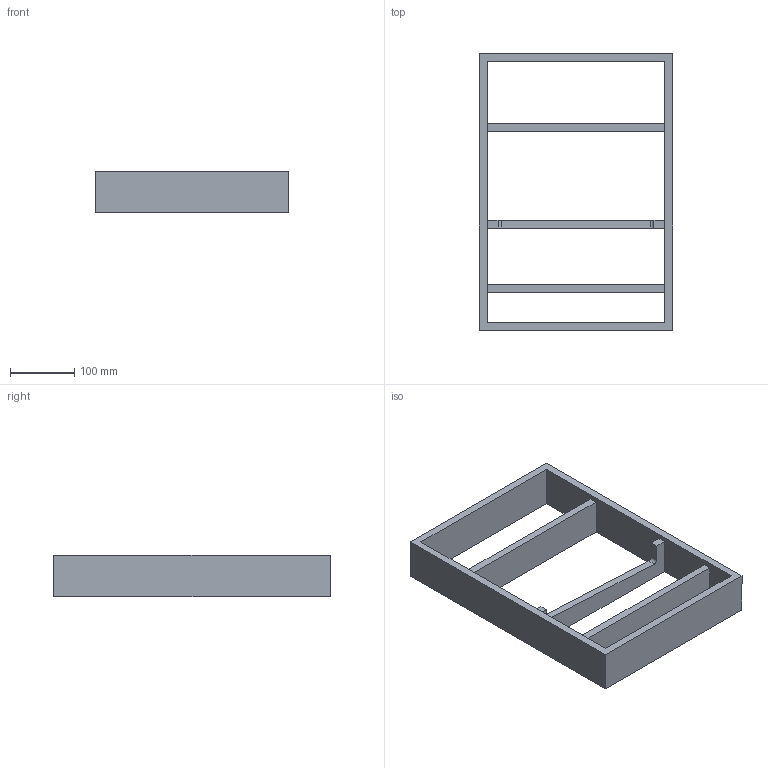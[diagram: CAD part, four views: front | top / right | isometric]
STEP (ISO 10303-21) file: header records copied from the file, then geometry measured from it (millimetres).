
FILE_DESCRIPTION (( 'STEP AP214' ), '1' );
FILE_NAME ('Vario Messer_Modul_H65_NL450_B300_ZE_Alu_Buche.step', '2010-10-07T06:11:51', ( 'grass' ), ( '' ), 'SwSTEP 2.0', 'SolidWorks 2010', '' );
FILE_SCHEMA (( 'AUTOMOTIVE_DESIGN' ));
Length unit declared in the file: millimetre
Products named in the file (1): Vario Messer_Modul_H65_NL450_B300_ZE_Alu_Buche
Bounding box: 300 x 429 x 65 mm (x, y, z)
Volume: 1590777.5 mm3; surface area: 315313.4 mm2
Topology: 1 solids, 1 shells, 25 faces, 78 edges, 52 vertices
Faces by surface type: plane 23, cylinder 2
Entity records: 906 total; most frequent: CARTESIAN_POINT 156, ORIENTED_EDGE 156, DIRECTION 134, EDGE_CURVE 78, VECTOR 74, LINE 74, VERTEX_POINT 52, AXIS2_PLACEMENT_3D 30
